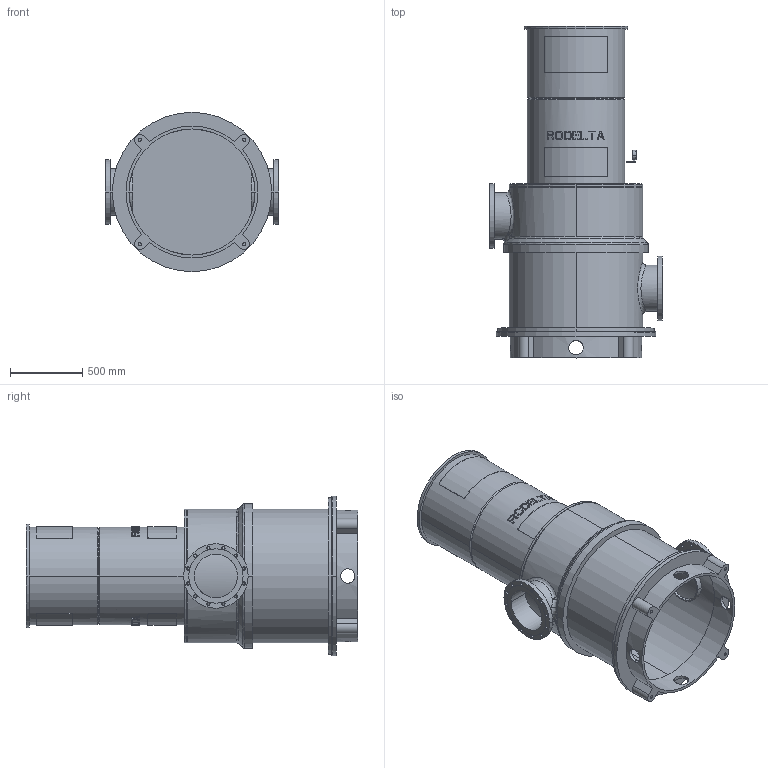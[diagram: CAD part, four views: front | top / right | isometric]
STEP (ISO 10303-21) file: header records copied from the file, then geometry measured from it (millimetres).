
FILE_DESCRIPTION((''),'2;1');
FILE_NAME('LS12_1TR_0GR_UPTO_90KW','2023-08-25T',('Lyritlocal'),(''),'PRO/ENGINEER BY PARAMETRIC TECHNOLOGY CORPORATION, 2016360','PRO/ENGINEER BY PARAMETRIC TECHNOLOGY CORPORATION, 2016360','');
FILE_SCHEMA(('CONFIG_CONTROL_DESIGN'));
Length unit declared in the file: millimetre
Products named in the file (1): LS12_1TR_0GR_UPTO_90KW
Bounding box: 1200 x 2290 x 1100 mm (x, y, z)
Volume: 119086650.1 mm3; surface area: 15391270.7 mm2
Topology: 3 solids, 7 shells, 559 faces, 1467 edges, 971 vertices
Faces by surface type: plane 335, cylinder 198, cone 13, bspline 10, torus 3
Entity records: 18693 total; most frequent: CARTESIAN_POINT 5095, ORIENTED_EDGE 2918, DIRECTION 2627, EDGE_CURVE 1467, AXIS2_PLACEMENT_3D 998, VERTEX_POINT 971, EDGE_LOOP 676, VECTOR 631
